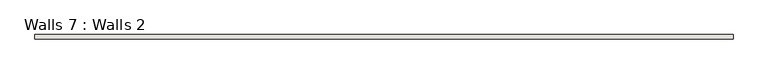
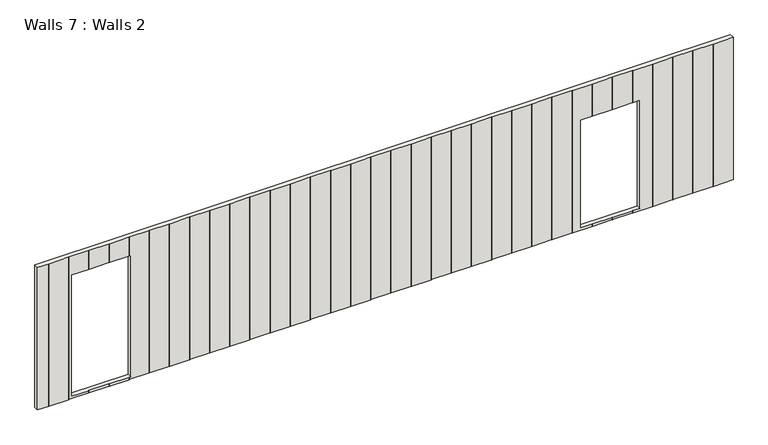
"""IFC4 building model written with IfcOpenShell, lengths in millimetres: wall geometry, Walls 7 : Walls 2."""

from ifc_helpers import new_model, si_unit, origin, place, context, project, spatial, faceted_brep, source, transform, mapped, element, save


def walls_7_walls_2_60d64259(model_context):
    return source(origin(), model_context, "Body", "Brep", [
        faceted_brep([(19718.9536405, 544.3490616, 3311.0), (6006.9536405, 544.3490616, 3311.0), (6006.9536405, 457.3490616, 3311.0), (6225.0336405, 457.3490616, 3311.0), (6226.9136405, 455.4690616, 3311.0), (6228.7936405, 457.3490616, 3311.0), (6621.9136405, 457.3490616, 3311.0), (6623.7936405, 455.4690616, 3311.0), (6625.6736405, 457.3490616, 3311.0), (7018.7936405, 457.3490616, 3311.0), (7020.6736405, 455.4690616, 3311.0), (7022.5536405, 457.3490616, 3311.0), (7415.6736405, 457.3490616, 3311.0), (7417.5536405, 455.4690616, 3311.0), (7419.4336405, 457.3490616, 3311.0), (7812.5536405, 457.3490616, 3311.0), (7814.4336405, 455.4690616, 3311.0), (7816.3136405, 457.3490616, 3311.0), (8209.4336405, 457.3490616, 3311.0), (8211.3136405, 455.4690616, 3311.0), (8213.1936405, 457.3490616, 3311.0), (8606.3136405, 457.3490616, 3311.0), (8608.1936405, 455.4690616, 3311.0), (8610.0736405, 457.3490616, 3311.0), (9003.1936405, 457.3490616, 3311.0), (9005.0736405, 455.4690616, 3311.0), (9006.9536405, 457.3490616, 3311.0), (9400.0736405, 457.3490616, 3311.0), (9401.9536405, 455.4690616, 3311.0), (9403.8336405, 457.3490616, 3311.0), (9796.9536405, 457.3490616, 3311.0), (9798.8336405, 455.4690616, 3311.0), (9800.7136405, 457.3490616, 3311.0), (10193.8336405, 457.3490616, 3311.0), (10195.7136405, 455.4690616, 3311.0), (10197.5936405, 457.3490616, 3311.0), (10590.7136405, 457.3490616, 3311.0), (10592.5936405, 455.4690616, 3311.0), (10594.4736405, 457.3490616, 3311.0), (10987.5936405, 457.3490616, 3311.0), (10989.4736405, 455.4690616, 3311.0), (10991.3536405, 457.3490616, 3311.0), (11384.4736405, 457.3490616, 3311.0), (11386.3536405, 455.4690616, 3311.0), (11388.2336405, 457.3490616, 3311.0), (11781.3536405, 457.3490616, 3311.0), (11783.2336405, 455.4690616, 3311.0), (11785.1136405, 457.3490616, 3311.0), (12178.2336405, 457.3490616, 3311.0), (12180.1136405, 455.4690616, 3311.0), (12181.9936405, 457.3490616, 3311.0), (12575.1136405, 457.3490616, 3311.0), (12576.9936405, 455.4690616, 3311.0), (12578.8736405, 457.3490616, 3311.0), (12971.9936405, 457.3490616, 3311.0), (12973.8736405, 455.4690616, 3311.0), (12975.7536405, 457.3490616, 3311.0), (13368.8736405, 457.3490616, 3311.0), (13370.7536405, 455.4690616, 3311.0), (13372.6336405, 457.3490616, 3311.0), (13765.7536405, 457.3490616, 3311.0), (13767.6336405, 455.4690616, 3311.0), (13769.5136405, 457.3490616, 3311.0), (14162.6336405, 457.3490616, 3311.0), (14164.5136405, 455.4690616, 3311.0), (14166.3936405, 457.3490616, 3311.0), (14559.5136405, 457.3490616, 3311.0), (14561.3936405, 455.4690616, 3311.0), (14563.2736405, 457.3490616, 3311.0), (14956.3936405, 457.3490616, 3311.0), (14958.2736405, 455.4690616, 3311.0), (14960.1536405, 457.3490616, 3311.0), (15353.2736405, 457.3490616, 3311.0), (15355.1536405, 455.4690616, 3311.0), (15357.0336405, 457.3490616, 3311.0), (15750.1536405, 457.3490616, 3311.0), (15752.0336405, 455.4690616, 3311.0), (15753.9136405, 457.3490616, 3311.0), (16147.0336405, 457.3490616, 3311.0), (16148.9136405, 455.4690616, 3311.0), (16150.7936405, 457.3490616, 3311.0), (16543.9136405, 457.3490616, 3311.0), (16545.7936405, 455.4690616, 3311.0), (16547.6736405, 457.3490616, 3311.0), (16940.7936405, 457.3490616, 3311.0), (16942.6736405, 455.4690616, 3311.0), (16944.5536405, 457.3490616, 3311.0), (17337.6736405, 457.3490616, 3311.0), (17339.5536405, 455.4690616, 3311.0), (17341.4336405, 457.3490616, 3311.0), (17734.5536405, 457.3490616, 3311.0), (17736.4336405, 455.4690616, 3311.0), (17738.3136405, 457.3490616, 3311.0), (18131.4336405, 457.3490616, 3311.0), (18133.3136405, 455.4690616, 3311.0), (18135.1936405, 457.3490616, 3311.0), (18528.3136405, 457.3490616, 3311.0), (18530.1936405, 455.4690616, 3311.0), (18532.0736405, 457.3490616, 3311.0), (18925.1936405, 457.3490616, 3311.0), (18927.0736405, 455.4690616, 3311.0), (18928.9536405, 457.3490616, 3311.0), (19322.0736405, 457.3490616, 3311.0), (19323.9536405, 455.4690616, 3311.0), (19325.8336405, 457.3490616, 3311.0), (19718.9536405, 457.3490616, 3311.0), (6006.9536405, 544.3490616, 340.0), (19718.9536405, 544.3490616, 340.0), (19718.9536405, 457.3490616, 340.0), (19325.8336405, 457.3490616, 340.0), (19323.9536405, 455.4690616, 340.0), (19322.0736405, 457.3490616, 340.0), (18928.9536405, 457.3490616, 340.0), (18927.0736405, 455.4690616, 340.0), (18925.1936405, 457.3490616, 340.0), (18532.0736405, 457.3490616, 340.0), (18530.1936405, 455.4690616, 340.0), (18528.3136405, 457.3490616, 340.0), (18135.1936405, 457.3490616, 340.0), (18133.3136405, 455.4690616, 340.0), (18131.4336405, 457.3490616, 340.0), (17738.3136405, 457.3490616, 340.0), (17736.4336405, 455.4690616, 340.0), (17734.5536405, 457.3490616, 340.0), (17341.4336405, 457.3490616, 340.0), (17339.5536405, 455.4690616, 340.0), (17337.6736405, 457.3490616, 340.0), (16944.5536405, 457.3490616, 340.0), (16942.6736405, 455.4690616, 340.0), (16940.7936405, 457.3490616, 340.0), (16547.6736405, 457.3490616, 340.0), (16545.7936405, 455.4690616, 340.0), (16543.9136405, 457.3490616, 340.0), (16150.7936405, 457.3490616, 340.0), (16148.9136405, 455.4690616, 340.0), (16147.0336405, 457.3490616, 340.0), (15753.9136405, 457.3490616, 340.0), (15752.0336405, 455.4690616, 340.0), (15750.1536405, 457.3490616, 340.0), (15357.0336405, 457.3490616, 340.0), (15355.1536405, 455.4690616, 340.0), (15353.2736405, 457.3490616, 340.0), (14960.1536405, 457.3490616, 340.0), (14958.2736405, 455.4690616, 340.0), (14956.3936405, 457.3490616, 340.0), (14563.2736405, 457.3490616, 340.0), (14561.3936405, 455.4690616, 340.0), (14559.5136405, 457.3490616, 340.0), (14166.3936405, 457.3490616, 340.0), (14164.5136405, 455.4690616, 340.0), (14162.6336405, 457.3490616, 340.0), (13769.5136405, 457.3490616, 340.0), (13767.6336405, 455.4690616, 340.0), (13765.7536405, 457.3490616, 340.0), (13372.6336405, 457.3490616, 340.0), (13370.7536405, 455.4690616, 340.0), (13368.8736405, 457.3490616, 340.0), (12975.7536405, 457.3490616, 340.0), (12973.8736405, 455.4690616, 340.0), (12971.9936405, 457.3490616, 340.0), (12578.8736405, 457.3490616, 340.0), (12576.9936405, 455.4690616, 340.0), (12575.1136405, 457.3490616, 340.0), (12181.9936405, 457.3490616, 340.0), (12180.1136405, 455.4690616, 340.0), (12178.2336405, 457.3490616, 340.0), (11785.1136405, 457.3490616, 340.0), (11783.2336405, 455.4690616, 340.0), (11781.3536405, 457.3490616, 340.0), (11388.2336405, 457.3490616, 340.0), (11386.3536405, 455.4690616, 340.0), (11384.4736405, 457.3490616, 340.0), (10991.3536405, 457.3490616, 340.0), (10989.4736405, 455.4690616, 340.0), (10987.5936405, 457.3490616, 340.0), (10594.4736405, 457.3490616, 340.0), (10592.5936405, 455.4690616, 340.0), (10590.7136405, 457.3490616, 340.0), (10197.5936405, 457.3490616, 340.0), (10195.7136405, 455.4690616, 340.0), (10193.8336405, 457.3490616, 340.0), (9800.7136405, 457.3490616, 340.0), (9798.8336405, 455.4690616, 340.0), (9796.9536405, 457.3490616, 340.0), (9403.8336405, 457.3490616, 340.0), (9401.9536405, 455.4690616, 340.0), (9400.0736405, 457.3490616, 340.0), (9006.9536405, 457.3490616, 340.0), (9005.0736405, 455.4690616, 340.0), (9003.1936405, 457.3490616, 340.0), (8610.0736405, 457.3490616, 340.0), (8608.1936405, 455.4690616, 340.0), (8606.3136405, 457.3490616, 340.0), (8213.1936405, 457.3490616, 340.0), (8211.3136405, 455.4690616, 340.0), (8209.4336405, 457.3490616, 340.0), (7816.3136405, 457.3490616, 340.0), (7814.4336405, 455.4690616, 340.0), (7812.5536405, 457.3490616, 340.0), (7419.4336405, 457.3490616, 340.0), (7417.5536405, 455.4690616, 340.0), (7415.6736405, 457.3490616, 340.0), (7022.5536405, 457.3490616, 340.0), (7020.6736405, 455.4690616, 340.0), (7018.7936405, 457.3490616, 340.0), (6625.6736405, 457.3490616, 340.0), (6623.7936405, 455.4690616, 340.0), (6621.9136405, 457.3490616, 340.0), (6228.7936405, 457.3490616, 340.0), (6226.9136405, 455.4690616, 340.0), (6225.0336405, 457.3490616, 340.0), (6006.9536405, 457.3490616, 340.0), (6673.6259713, 544.3490616, 2918.1196353), (6673.6259713, 544.3490616, 387.5), (7849.1045126, 544.3490616, 387.5), (7849.1045126, 544.3490616, 2918.1196353), (16705.854026, 544.3490616, 2641.5), (16705.854026, 544.3490616, 387.5), (17880.854026, 544.3490616, 387.5), (17880.854026, 544.3490616, 2641.5), (7018.7936405, 457.3490616, 387.5), (6673.6259713, 457.3490616, 387.5), (6673.6259713, 457.3490616, 2918.1196353), (7018.7936405, 457.3490616, 2918.1196353), (7020.6736405, 455.4690616, 2918.1196353), (7020.6736405, 455.4690616, 387.5), (7022.5536405, 457.3490616, 2918.1196353), (7022.5536405, 457.3490616, 387.5), (7415.6736405, 457.3490616, 2918.1196353), (7415.6736405, 457.3490616, 387.5), (7417.5536405, 455.4690616, 2918.1196353), (7417.5536405, 455.4690616, 387.5), (7419.4336405, 457.3490616, 2918.1196353), (7419.4336405, 457.3490616, 387.5), (7812.5536405, 457.3490616, 2918.1196353), (7812.5536405, 457.3490616, 387.5), (7814.4336405, 455.4690616, 2918.1196353), (7814.4336405, 455.4690616, 387.5), (7816.3136405, 457.3490616, 2918.1196353), (7816.3136405, 457.3490616, 387.5), (7849.1045126, 457.3490616, 2918.1196353), (7849.1045126, 457.3490616, 387.5), (16940.7936405, 457.3490616, 387.5), (16705.854026, 457.3490616, 387.5), (16705.854026, 457.3490616, 2641.5), (16940.7936405, 457.3490616, 2641.5), (16942.6736405, 455.4690616, 2641.5), (16942.6736405, 455.4690616, 387.5), (16944.5536405, 457.3490616, 2641.5), (16944.5536405, 457.3490616, 387.5), (17337.6736405, 457.3490616, 2641.5), (17337.6736405, 457.3490616, 387.5), (17339.5536405, 455.4690616, 2641.5), (17339.5536405, 455.4690616, 387.5), (17341.4336405, 457.3490616, 2641.5), (17341.4336405, 457.3490616, 387.5), (17734.5536405, 457.3490616, 2641.5), (17734.5536405, 457.3490616, 387.5), (17736.4336405, 455.4690616, 2641.5), (17736.4336405, 455.4690616, 387.5), (17738.3136405, 457.3490616, 2641.5), (17738.3136405, 457.3490616, 387.5), (17880.854026, 457.3490616, 2641.5), (17880.854026, 457.3490616, 387.5)], [[[0, 1, 2, 3, 4, 5, 6, 7, 8, 9, 10, 11, 12, 13, 14, 15, 16, 17, 18, 19, 20, 21, 22, 23, 24, 25, 26, 27, 28, 29, 30, 31, 32, 33, 34, 35, 36, 37, 38, 39, 40, 41, 42, 43, 44, 45, 46, 47, 48, 49, 50, 51, 52, 53, 54, 55, 56, 57, 58, 59, 60, 61, 62, 63, 64, 65, 66, 67, 68, 69, 70, 71, 72, 73, 74, 75, 76, 77, 78, 79, 80, 81, 82, 83, 84, 85, 86, 87, 88, 89, 90, 91, 92, 93, 94, 95, 96, 97, 98, 99, 100, 101, 102, 103, 104, 105]], [[106, 107, 108, 109, 110, 111, 112, 113, 114, 115, 116, 117, 118, 119, 120, 121, 122, 123, 124, 125, 126, 127, 128, 129, 130, 131, 132, 133, 134, 135, 136, 137, 138, 139, 140, 141, 142, 143, 144, 145, 146, 147, 148, 149, 150, 151, 152, 153, 154, 155, 156, 157, 158, 159, 160, 161, 162, 163, 164, 165, 166, 167, 168, 169, 170, 171, 172, 173, 174, 175, 176, 177, 178, 179, 180, 181, 182, 183, 184, 185, 186, 187, 188, 189, 190, 191, 192, 193, 194, 195, 196, 197, 198, 199, 200, 201, 202, 203, 204, 205, 206, 207, 208, 209, 210, 211]], [[107, 106, 1, 0], [212, 213, 214, 215], [216, 217, 218, 219]], [[106, 211, 2, 1]], [[0, 105, 108, 107]], [[3, 2, 211, 210]], [[4, 3, 210, 209]], [[5, 4, 209, 208]], [[6, 5, 208, 207]], [[7, 6, 207, 206]], [[8, 7, 206, 205]], [[9, 8, 205, 204, 220, 221, 222, 223]], [[10, 9, 223, 224]], [[204, 203, 225, 220]], [[11, 10, 224, 226]], [[203, 202, 227, 225]], [[12, 11, 226, 228]], [[202, 201, 229, 227]], [[13, 12, 228, 230]], [[201, 200, 231, 229]], [[14, 13, 230, 232]], [[200, 199, 233, 231]], [[15, 14, 232, 234]], [[199, 198, 235, 233]], [[16, 15, 234, 236]], [[198, 197, 237, 235]], [[17, 16, 236, 238]], [[197, 196, 239, 237]], [[18, 17, 238, 240, 241, 239, 196, 195]], [[19, 18, 195, 194]], [[20, 19, 194, 193]], [[21, 20, 193, 192]], [[22, 21, 192, 191]], [[23, 22, 191, 190]], [[24, 23, 190, 189]], [[25, 24, 189, 188]], [[26, 25, 188, 187]], [[27, 26, 187, 186]], [[28, 27, 186, 185]], [[29, 28, 185, 184]], [[30, 29, 184, 183]], [[31, 30, 183, 182]], [[32, 31, 182, 181]], [[33, 32, 181, 180]], [[34, 33, 180, 179]], [[35, 34, 179, 178]], [[36, 35, 178, 177]], [[37, 36, 177, 176]], [[38, 37, 176, 175]], [[39, 38, 175, 174]], [[40, 39, 174, 173]], [[41, 40, 173, 172]], [[42, 41, 172, 171]], [[43, 42, 171, 170]], [[44, 43, 170, 169]], [[45, 44, 169, 168]], [[46, 45, 168, 167]], [[47, 46, 167, 166]], [[48, 47, 166, 165]], [[49, 48, 165, 164]], [[50, 49, 164, 163]], [[51, 50, 163, 162]], [[52, 51, 162, 161]], [[53, 52, 161, 160]], [[54, 53, 160, 159]], [[55, 54, 159, 158]], [[56, 55, 158, 157]], [[57, 56, 157, 156]], [[58, 57, 156, 155]], [[59, 58, 155, 154]], [[60, 59, 154, 153]], [[61, 60, 153, 152]], [[62, 61, 152, 151]], [[63, 62, 151, 150]], [[64, 63, 150, 149]], [[65, 64, 149, 148]], [[66, 65, 148, 147]], [[67, 66, 147, 146]], [[68, 67, 146, 145]], [[69, 68, 145, 144]], [[70, 69, 144, 143]], [[71, 70, 143, 142]], [[72, 71, 142, 141]], [[73, 72, 141, 140]], [[74, 73, 140, 139]], [[75, 74, 139, 138]], [[76, 75, 138, 137]], [[77, 76, 137, 136]], [[78, 77, 136, 135]], [[79, 78, 135, 134]], [[80, 79, 134, 133]], [[81, 80, 133, 132]], [[82, 81, 132, 131]], [[83, 82, 131, 130]], [[84, 83, 130, 129, 242, 243, 244, 245]], [[85, 84, 245, 246]], [[129, 128, 247, 242]], [[86, 85, 246, 248]], [[128, 127, 249, 247]], [[87, 86, 248, 250]], [[127, 126, 251, 249]], [[88, 87, 250, 252]], [[126, 125, 253, 251]], [[89, 88, 252, 254]], [[125, 124, 255, 253]], [[90, 89, 254, 256]], [[124, 123, 257, 255]], [[91, 90, 256, 258]], [[123, 122, 259, 257]], [[92, 91, 258, 260]], [[122, 121, 261, 259]], [[93, 92, 260, 262, 263, 261, 121, 120]], [[94, 93, 120, 119]], [[95, 94, 119, 118]], [[96, 95, 118, 117]], [[97, 96, 117, 116]], [[98, 97, 116, 115]], [[99, 98, 115, 114]], [[100, 99, 114, 113]], [[101, 100, 113, 112]], [[102, 101, 112, 111]], [[103, 102, 111, 110]], [[104, 103, 110, 109]], [[105, 104, 109, 108]], [[221, 213, 212, 222]], [[222, 212, 215, 240, 238, 236, 234, 232, 230, 228, 226, 224, 223]], [[240, 215, 214, 241]], [[213, 221, 220, 225, 227, 229, 231, 233, 235, 237, 239, 241, 214]], [[243, 217, 216, 244]], [[244, 216, 219, 262, 260, 258, 256, 254, 252, 250, 248, 246, 245]], [[262, 219, 218, 263]], [[217, 243, 242, 247, 249, 251, 253, 255, 257, 259, 261, 263, 218]]]),
    ])


if __name__ == "__main__":
    model = new_model("IFC4")
    model_context = context("Model", 3, world=origin())
    ifc_project = project(units=[si_unit("LENGTHUNIT", "METRE", prefix="MILLI")], contexts=[model_context])
    site = spatial("IfcSite", under=ifc_project)
    building = spatial("IfcBuilding", under=site)
    placement = place(None, origin())
    walls_7_walls_2_shape = walls_7_walls_2_60d64259(model_context)
    element("IfcWall", 1, ObjectType="Walls 7 : Walls 2", at=placement, inside=building, context=model_context, shape_type="MappedRepresentation", body=[
        mapped(walls_7_walls_2_shape, transform((0.0, 0.0, 0.0), x_axis=(1.0, 0.0, 0.0), y_axis=(0.0, 1.0, 0.0), z_axis=(0.0, 0.0, 1.0))),
    ])
    save(model, "model.ifc")
